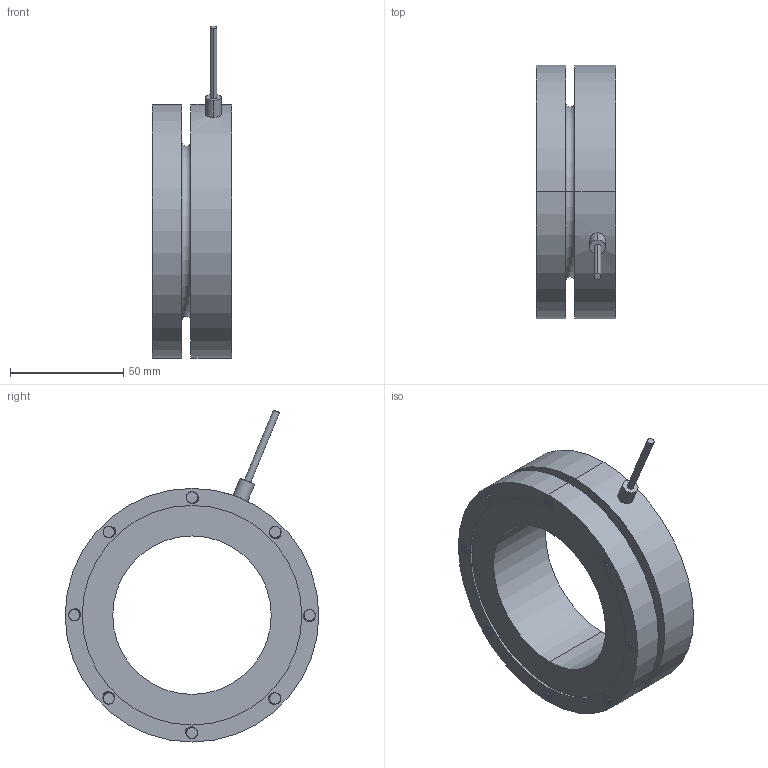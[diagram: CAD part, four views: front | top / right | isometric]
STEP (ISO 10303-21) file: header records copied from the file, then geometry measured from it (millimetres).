
FILE_DESCRIPTION((''),'2;1');
FILE_NAME('14EKB_5_10T_WXT','2024-05-16T10:51:31',('DELL'),(''),'CREO PARAMETRIC BY PTC INC, 2020354','CREO PARAMETRIC BY PTC INC, 2020354','');
FILE_SCHEMA(('CONFIG_CONTROL_DESIGN'));
Products named in the file (1): 14EKB_5_10T_WXT
Bounding box: 35 x 112 x 146.63 mm (x, y, z)
Volume: 175942 mm3; surface area: 47370.7 mm2
Topology: 1 solids, 1 shells, 472 faces, 1312 edges, 840 vertices
Faces by surface type: cylinder 334, bspline 96, plane 24, cone 16, torus 2
Entity records: 36641 total; most frequent: CARTESIAN_POINT 26327, ORIENTED_EDGE 2592, DIRECTION 1374, EDGE_CURVE 1296, VERTEX_POINT 840, B_SPLINE_CURVE_WITH_KNOTS 754, EDGE_LOOP 504, FACE_OUTER_BOUND 472
